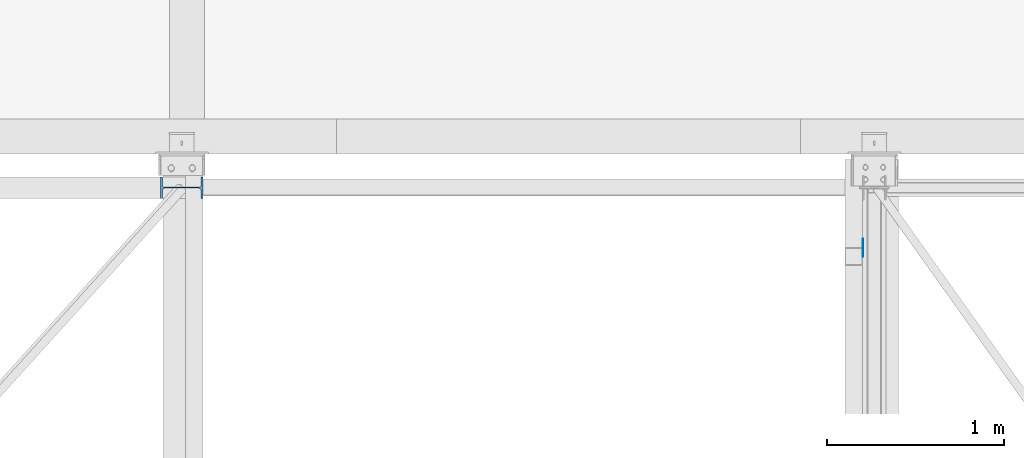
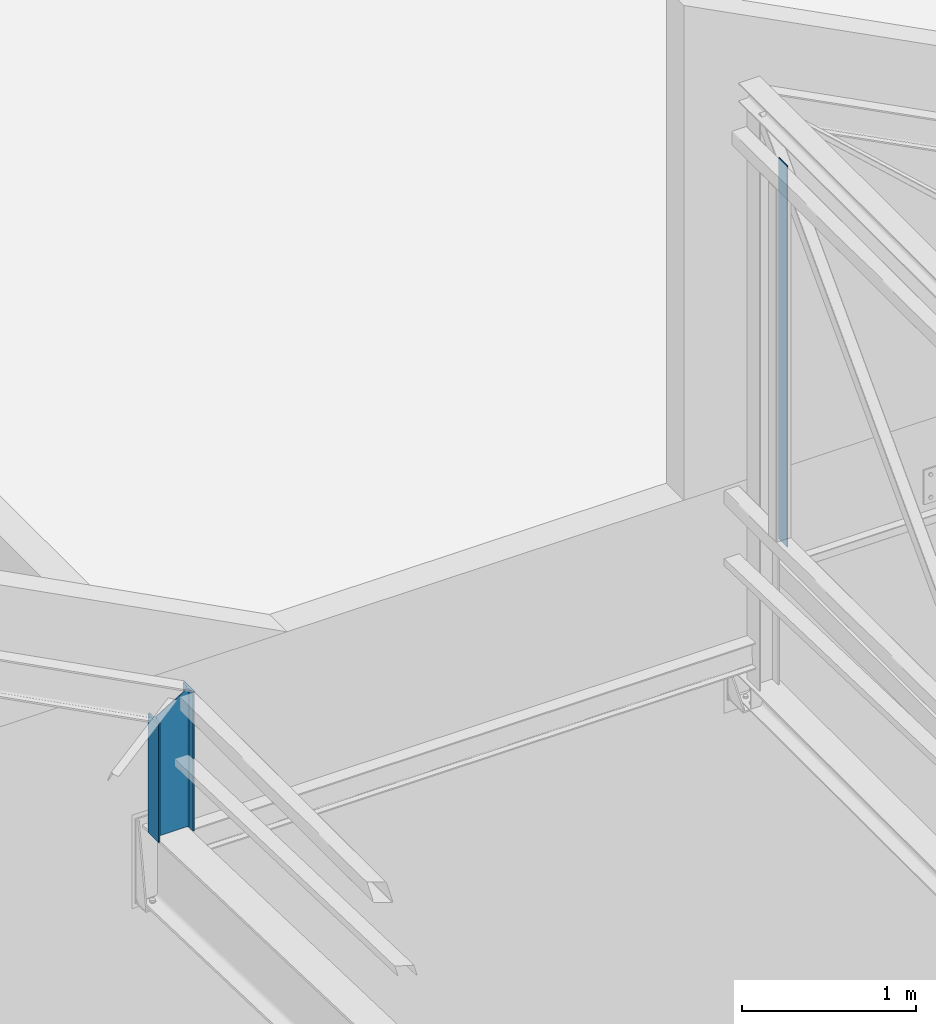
# One storey, part 54 of 123: 2 discrete accessories, 2 elements without a shape of their own.
"""IFC2X3 building model written with IfcOpenShell, lengths in millimetres."""

import ifcopenshell
import ifcopenshell.guid

model = None  # the IFC model being written
_history = None  # IfcOwnerHistory: only IFC2X3 demands one
_inside = {}  # id of a spatial element -> (the spatial element, [elements in it])
_under = {}  # id of a project, library or spatial element -> (it, [spatial elements below it])
_declared = {}  # id of a project -> (the project, [libraries it declares])
_typed = {}  # id of a type object -> (the type object, [elements of that type])
_made_of = {}  # id of a material, layer set ... -> (it, [elements and type objects made of it])


def new_model(schema):
    """Start an empty IFC model of exactly this schema.

    Asked for "IFC4X3", IfcOpenShell would pick the latest addendum, in which some entities
    have other attributes; the version numbers below select the first issue.
    IFC2X3 requires an IfcOwnerHistory on every rooted entity: one is made here for all.
    """
    global model, _history
    if schema == "IFC4X3":
        model = ifcopenshell.file(schema_version=(4, 3, 0, 0))
    else:
        model = ifcopenshell.file(schema=schema)
    _inside.clear()
    _under.clear()
    _declared.clear()
    _typed.clear()
    _made_of.clear()
    _history = None
    if model.schema == "IFC2X3":
        org = make("IfcOrganization", Name="unknown")
        user = make(
            "IfcPersonAndOrganization",
            ThePerson=make("IfcPerson", FamilyName="unknown"),
            TheOrganization=org,
        )
        app = make(
            "IfcApplication",
            ApplicationDeveloper=org,
            Version="unknown",
            ApplicationFullName="unknown",
            ApplicationIdentifier="unknown",
        )
        _history = make(
            "IfcOwnerHistory",
            OwningUser=user,
            OwningApplication=app,
            ChangeAction="ADDED",
            CreationDate=0,
        )
    return model


def make(cls, **values):
    """One entity of the class cls with the attributes given. An attribute that is None is left unset."""
    return model.create_entity(
        cls, **{name: value for name, value in values.items() if value is not None}
    )


def rooted(cls, **values):
    """An entity with a GlobalId (a new one), such as an element, a storey or a relation."""
    return make(cls, GlobalId=ifcopenshell.guid.new(), OwnerHistory=_history, **values)


def si_unit(unit_type, name, prefix=None):
    """IfcSIUnit, for example si_unit("LENGTHUNIT", "METRE", prefix="MILLI")."""
    return make("IfcSIUnit", UnitType=unit_type, Prefix=prefix, Name=name)


def assignment(units):
    """IfcUnitAssignment: the units of a project."""
    return None if units is None else make("IfcUnitAssignment", Units=units)


def point(xyz):
    """IfcCartesianPoint."""
    return None if xyz is None else make("IfcCartesianPoint", Coordinates=xyz)


def direction(xyz):
    """IfcDirection."""
    return None if xyz is None else make("IfcDirection", DirectionRatios=xyz)


def frame(location, z_axis=None, x_axis=None):
    """IfcAxis2Placement3D, a coordinate frame: its origin and axes. An axis left out is left unset."""
    return make(
        "IfcAxis2Placement3D",
        Location=point(location),
        Axis=direction(z_axis),
        RefDirection=direction(x_axis),
    )


def frame_2d(location, x_axis=None):
    """IfcAxis2Placement2D, a coordinate frame in the plane: its origin and x axis."""
    return make(
        "IfcAxis2Placement2D", Location=point(location), RefDirection=direction(x_axis)
    )


def origin_with_axes():
    """The frame at (0, 0, 0) with the z axis (0, 0, 1) and the x axis (1, 0, 0) written out."""
    return frame((0.0, 0.0, 0.0), z_axis=(0.0, 0.0, 1.0), x_axis=(1.0, 0.0, 0.0))


def origin_2d_with_axis():
    """The frame at (0, 0) in the plane with the x axis (1, 0) written out."""
    return frame_2d((0.0, 0.0), x_axis=(1.0, 0.0))


def place(relative_to, where):
    """IfcLocalPlacement: puts the frame where relative to a parent placement (None: the world)."""
    return make(
        "IfcLocalPlacement", PlacementRelTo=relative_to, RelativePlacement=where
    )


def context(
    kind, dimensions, precision=None, world=None, true_north=None, identifier=None
):
    """IfcGeometricRepresentationContext, for example the 3D "Model" context."""
    return make(
        "IfcGeometricRepresentationContext",
        ContextIdentifier=identifier,
        ContextType=kind,
        CoordinateSpaceDimension=dimensions,
        Precision=precision,
        WorldCoordinateSystem=world,
        TrueNorth=true_north,
    )


def subcontext(parent, identifier, kind, view, scale=None):
    """IfcGeometricRepresentationSubContext, for example "Body" below "Model"."""
    return make(
        "IfcGeometricRepresentationSubContext",
        ContextIdentifier=identifier,
        ContextType=kind,
        ParentContext=parent,
        TargetScale=scale,
        TargetView=view,
    )


def project(units=None, contexts=None):
    """IfcProject with its units and contexts."""
    return rooted(
        "IfcProject",
        Name="project",
        RepresentationContexts=contexts,
        UnitsInContext=assignment(units),
    )


def spatial(cls, under=None, at=None, **own):
    """A site, building, storey or space (cls), placed at a placement, below another one or the project."""
    s = rooted(cls, ObjectPlacement=at, **own)
    if under is not None:
        _under.setdefault(under.id(), (under, []))[1].append(s)
    return s


def polyline(points):
    """IfcPolyline through the points."""
    return make("IfcPolyline", Points=[point(p) for p in points])


def profile(cls, at=None, kind="AREA", **sizes):
    """A parametric profile (cls). Its sizes go by their IFC names, for example OverallWidth=200.0."""
    return make(cls, ProfileType=kind, Position=at, **sizes)


def i_section(**sizes):
    """IfcIShapeProfileDef."""
    return profile("IfcIShapeProfileDef", **sizes)


def outline(outer, holes=None, kind="AREA"):
    """IfcArbitraryClosedProfileDef: a profile drawn as a closed curve; with holes, ...WithVoids."""
    if holes is None:
        return make("IfcArbitraryClosedProfileDef", ProfileType=kind, OuterCurve=outer)
    return make(
        "IfcArbitraryProfileDefWithVoids",
        ProfileType=kind,
        OuterCurve=outer,
        InnerCurves=holes,
    )


def extrude(swept, where, along, depth):
    """IfcExtrudedAreaSolid: the profile swept, set in the frame where, extruded along a direction by depth."""
    return make(
        "IfcExtrudedAreaSolid",
        SweptArea=swept,
        Position=where,
        ExtrudedDirection=direction(along),
        Depth=depth,
    )


def clip(a, b, op="DIFFERENCE"):
    """IfcBooleanClippingResult: the solid a cut by the half space b."""
    return make(
        "IfcBooleanClippingResult", Operator=op, FirstOperand=a, SecondOperand=b
    )


def halfspace(plane, agree):
    """IfcHalfSpaceSolid: all space on one side of the plane z = 0 of the frame plane."""
    return make(
        "IfcHalfSpaceSolid",
        BaseSurface=make("IfcPlane", Position=plane),
        AgreementFlag=agree,
    )


def shape(context_of_items, identifier, shape_type, items):
    """IfcShapeRepresentation: the items that make up one representation, for example the "Body"."""
    return make(
        "IfcShapeRepresentation",
        ContextOfItems=context_of_items,
        RepresentationIdentifier=identifier,
        RepresentationType=shape_type,
        Items=items,
    )


def material(Name=None, Category=None):
    """IfcMaterial."""
    return make("IfcMaterial", Name=Name, Category=Category)


def made_of(thing, what):
    """Note that an element or type object is made of a material, layer set ...; save() writes the relation."""
    if what is not None:
        _made_of.setdefault(what.id(), (what, []))[1].append(thing)
    return thing


def type_object(cls, material=None, **own):
    """A type object (cls), such as IfcWallType, which elements share."""
    return made_of(rooted(cls, **own), material)


def element(
    cls,
    number,
    at=None,
    inside=None,
    cuts=None,
    type_object=None,
    material=None,
    context=None,
    identifier="Body",
    shape_type=None,
    held_by="IfcProductDefinitionShape",
    body=None,
    shapes=None,
    **own,
):
    """One element of the class cls, such as IfcWall. Its Tag is "e" and its number.

    at: its placement. inside: the storey or other place that contains it. cuts: it is an
    opening in that element (IfcRelVoidsElement). A single representation is given by context,
    identifier, shape_type and body (its items); several are given by shapes. held_by: the class
    of the entity that holds the representations. save() writes the other relations.
    """
    e = rooted(cls, Tag="e%d" % number, ObjectPlacement=at, **own)
    if body is not None:
        shapes = [shape(context, identifier, shape_type, body)]
    if shapes is not None:
        e.Representation = make(held_by, Representations=shapes)
    if inside is not None:
        _inside.setdefault(inside.id(), (inside, []))[1].append(e)
    if cuts is not None:
        rooted(
            "IfcRelVoidsElement", RelatingBuildingElement=cuts, RelatedOpeningElement=e
        )
    if type_object is not None:
        _typed.setdefault(type_object.id(), (type_object, []))[1].append(e)
    return made_of(e, material)


def aggregate(whole, parts):
    """IfcRelAggregates: a whole, such as a stair, and the parts it consists of."""
    return rooted("IfcRelAggregates", RelatingObject=whole, RelatedObjects=parts)


def save(model, path):
    """Write the relations noted so far, then the file.

    IfcRelAggregates (storeys below a building ...), IfcRelContainedInSpatialStructure (elements
    in a storey), IfcRelDefinesByType, IfcRelAssociatesMaterial and IfcRelDeclares: one each for
    every whole, place, type object, material and project.
    """
    for whole, parts in _under.values():
        aggregate(whole, parts)
    for where, things in _inside.values():
        rooted(
            "IfcRelContainedInSpatialStructure",
            RelatedElements=things,
            RelatingStructure=where,
        )
    for kind, things in _typed.values():
        rooted("IfcRelDefinesByType", RelatedObjects=things, RelatingType=kind)
    for what, things in _made_of.values():
        rooted("IfcRelAssociatesMaterial", RelatedObjects=things, RelatingMaterial=what)
    for by, libraries in _declared.values():
        rooted("IfcRelDeclares", RelatingContext=by, RelatedDefinitions=libraries)
    model.write(path)


model = new_model("IFC2X3")

# Units and contexts
model_context = context("Model", 3, precision=1e-05, world=origin_with_axes())
body_context = subcontext(model_context, "Body", "Model", "MODEL_VIEW")
ifc_project = project(units=[si_unit("LENGTHUNIT", "METRE", prefix="MILLI"), si_unit("AREAUNIT", "SQUARE_METRE"), si_unit("VOLUMEUNIT", "CUBIC_METRE"), si_unit("MASSUNIT", "GRAM", prefix="KILO"), si_unit("TIMEUNIT", "SECOND"), si_unit("PLANEANGLEUNIT", "RADIAN"), si_unit("SOLIDANGLEUNIT", "STERADIAN"), si_unit("THERMODYNAMICTEMPERATUREUNIT", "DEGREE_CELSIUS"), si_unit("LUMINOUSINTENSITYUNIT", "LUMEN")], contexts=[model_context])

# Site, building, storey
site_placement = place(None, origin_with_axes())
site = spatial("IfcSite", under=ifc_project, at=site_placement, Name="Undefined", CompositionType="ELEMENT")
building_placement = place(site_placement, origin_with_axes())
building = spatial("IfcBuilding", under=site, at=building_placement, Name="Undefined", CompositionType="ELEMENT")
storey_placement = place(building_placement, origin_with_axes())
storey = spatial("IfcBuildingStorey", under=building, at=storey_placement, Name="Undefined", CompositionType="ELEMENT", Elevation=0.0)

# Assembly, discrete accessory
assembly_1_placement = place(storey_placement, origin_with_axes())
assembly_1 = element("IfcElementAssembly", 1, at=assembly_1_placement, inside=storey, Name="Steel Assembly", AssemblyPlace="NOTDEFINED", PredefinedType="RIGID_FRAME")
ifc_material_1 = material(Name="STEEL/S235-E24")
discrete_accessory_type_1 = type_object("IfcDiscreteAccessoryType", Name="FEUILLURE")
discrete_accessory_1_placement = place(assembly_1_placement, frame((23406.0000000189, 14860.0000783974, 8450.0), z_axis=(-1.0, 0.0, 0.0), x_axis=(0.0, 0.0, 1.0)))
discrete_accessory_1 = element("IfcDiscreteAccessory", 2, at=discrete_accessory_1_placement, type_object=discrete_accessory_type_1, material=ifc_material_1, Name="FEUILLURE", ObjectType="PL100*5", context=body_context, shape_type="SweptSolid", body=[
    extrude(outline(polyline([(0.0, -50.0), (0.0, 50.0), (2670.0, 50.0), (2670.0, -50.0), (0.0, -50.0)])), frame((0.0, 0.0, -2.5), z_axis=(0.0, 0.0, 1.0), x_axis=(1.0, 0.0, 0.0)), (0.0, 0.0, 1.0), 5.0),
])
aggregate(assembly_1, [discrete_accessory_1])

assembly_2_placement = place(storey_placement, origin_with_axes())
assembly_2 = element("IfcElementAssembly", 3, at=assembly_2_placement, inside=storey, Name="Steel Assembly", AssemblyPlace="NOTDEFINED", PredefinedType="RIGID_FRAME")
ifc_material_2 = material(Name="STEEL/S275-E28")
discrete_accessory_type_2 = type_object("IfcDiscreteAccessoryType", Name="TRAVERSE SHED")
discrete_accessory_2_placement = place(assembly_2_placement, frame((19550.0, 15200.0, 7572.32075715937), z_axis=(0.0, 0.0, 1.0), x_axis=(-1.0, 0.0, 0.0)))
discrete_accessory_2 = element("IfcDiscreteAccessory", 4, at=discrete_accessory_2_placement, type_object=discrete_accessory_type_2, material=ifc_material_2, Name="TRAVERSE SHED", ObjectType="IPE240", context=body_context, shape_type="Clipping", body=[
    clip(extrude(i_section(OverallWidth=120.0, OverallDepth=240.0, WebThickness=6.199999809, FlangeThickness=9.800000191, FilletRadius=15.0, at=origin_2d_with_axis()), frame((0.0, 0.0, 978.405774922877), z_axis=(0.0, 0.0, -1.0), x_axis=(0.0, 1.0, 0.0)), (0.0, 0.0, 1.0), 978.4), halfspace(frame((-120.000000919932, 11400.0, 977.679244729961), z_axis=(0.517914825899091, 0.0, 0.855432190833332), x_axis=(0.0, 1.0, 0.0)), False)),
])
aggregate(assembly_2, [discrete_accessory_2])

save(model, "model.ifc")
